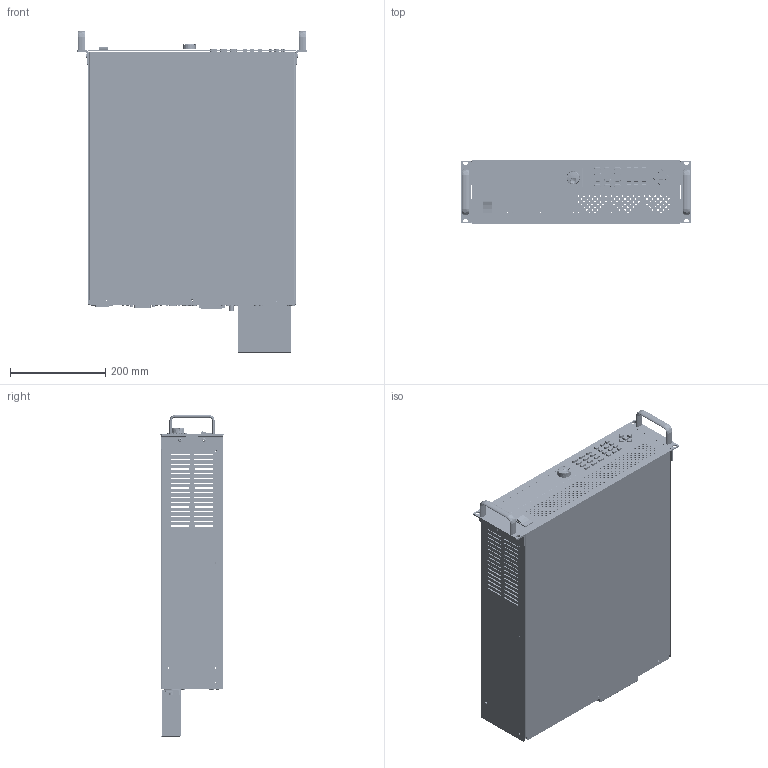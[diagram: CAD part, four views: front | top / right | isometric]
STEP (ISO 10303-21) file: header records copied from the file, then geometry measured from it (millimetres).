
FILE_DESCRIPTION (( 'STEP AP203' ), '1' );
FILE_NAME ('602438.STEP', '2019-07-22T01:56:04', ( '2121' ), ( 'Microsoft' ), 'SwSTEP 2.0', 'SolidWorks 2012', '' );
FILE_SCHEMA (( 'CONFIG_CONTROL_DESIGN' ));
Length unit declared in the file: millimetre
Products named in the file (1): 602438
Bounding box: 482 x 133.3 x 677.91 mm (x, y, z)
Surface area: 1840709.7 mm2 (no closed solid volume)
Topology: 0 solids, 198 shells, 2702 faces, 11261 edges, 8510 vertices
Faces by surface type: cylinder 1451, plane 948, torus 124, cone 91, bspline 88
Entity records: 124575 total; most frequent: CARTESIAN_POINT 29091, DIRECTION 20447, ORIENTED_EDGE 16878, EDGE_CURVE 11252, VERTEX_POINT 8510, AXIS2_PLACEMENT_3D 7399, VECTOR 5649, LINE 5649
